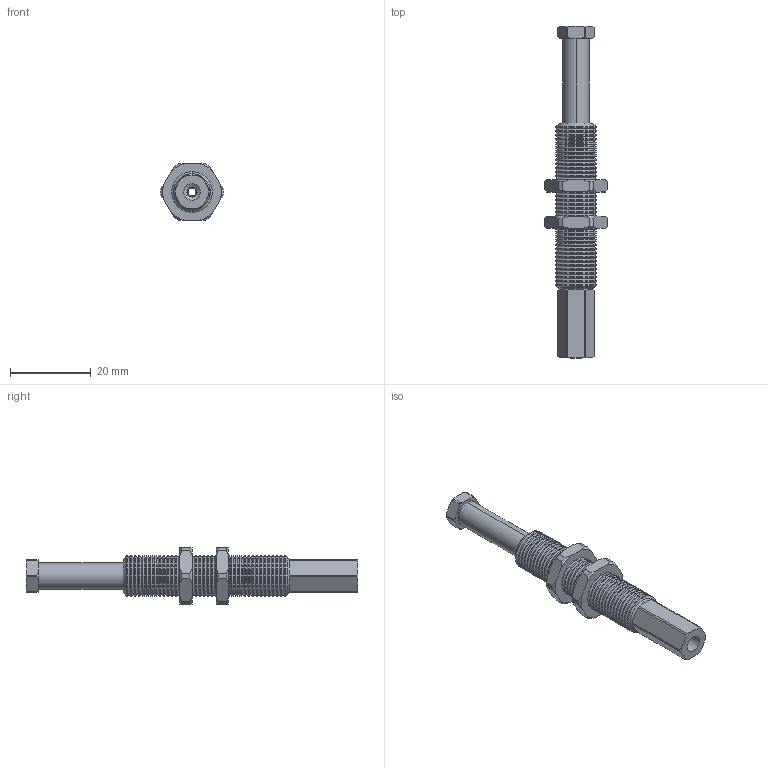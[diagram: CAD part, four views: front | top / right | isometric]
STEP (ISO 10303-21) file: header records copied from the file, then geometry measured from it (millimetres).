
FILE_DESCRIPTION (( 'STEP AP214' ), '1' );
FILE_NAME ('VFRT1021-M5.STEP', '2019-11-15T06:25:59', ( '微软用户' ), ( '微软中国' ), 'SwSTEP 2.0', 'SolidWorks 2016', '' );
FILE_SCHEMA (( 'AUTOMOTIVE_DESIGN' ));
Length unit declared in the file: millimetre
Products named in the file (1): VFRT1021-M5
Bounding box: 15.49 x 82 x 14 mm (x, y, z)
Volume: 4594.6 mm3; surface area: 6443.4 mm2
Topology: 5 solids, 5 shells, 456 faces, 1000 edges, 560 vertices
Faces by surface type: cone 262, cylinder 150, plane 40, torus 4
Entity records: 17474 total; most frequent: CARTESIAN_POINT 2305, DIRECTION 2286, ORIENTED_EDGE 2000, EDGE_CURVE 1000, AXIS2_PLACEMENT_3D 925, VERTEX_POINT 560, EDGE_LOOP 472, CIRCLE 468
